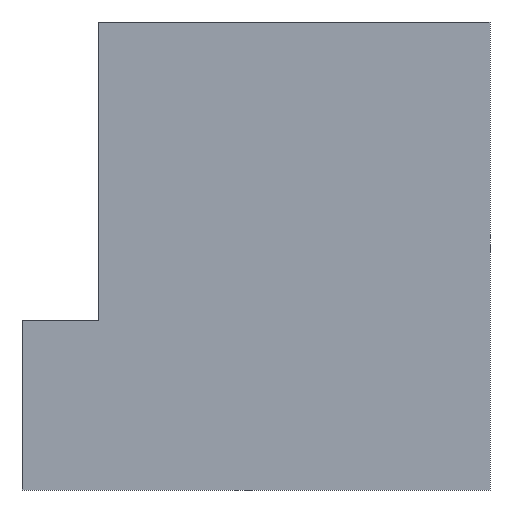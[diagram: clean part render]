
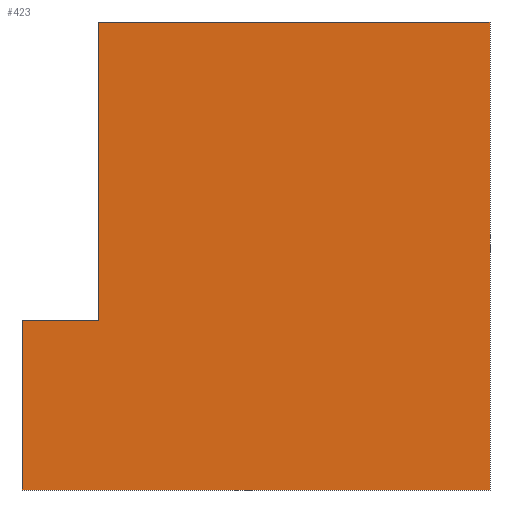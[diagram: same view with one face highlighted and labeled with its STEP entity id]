
A CAD part, front view. The second image highlights one B-rep face of the part: STEP entity #423.
In plain terms, the highlighted planar face has unit normal (0, -1, 0).
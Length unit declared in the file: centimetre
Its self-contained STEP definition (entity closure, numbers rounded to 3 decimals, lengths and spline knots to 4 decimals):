
#4 = CARTESIAN_POINT ( 'NONE',  ( 164.1496, 0., 361.1331 ) ) ;
#14 = CARTESIAN_POINT ( 'NONE',  ( 0., 0., 0. ) ) ;
#20 = CARTESIAN_POINT ( 'NONE',  ( 1000., 0., 1000. ) ) ;
#21 = CARTESIAN_POINT ( 'NONE',  ( 0., 0., 1000. ) ) ;
#54 = DIRECTION ( 'NONE',  ( 0., 0., 1. ) ) ;
#65 = EDGE_CURVE ( 'NONE', #159, #287, #540, .T. ) ;
#91 = EDGE_CURVE ( 'NONE', #536, #472, #452, .T. ) ;
#101 = ORIENTED_EDGE ( 'NONE', *, *, #91, .T. ) ;
#114 = LINE ( 'NONE', #4, #437 ) ;
#121 = VECTOR ( 'NONE', #324, 100. ) ;
#146 = VERTEX_POINT ( 'NONE', #286 ) ;
#152 = DIRECTION ( 'NONE',  ( 0., 0., 1. ) ) ;
#159 = VERTEX_POINT ( 'NONE', #467 ) ;
#161 = EDGE_CURVE ( 'NONE', #146, #159, #563, .T. ) ;
#164 = EDGE_CURVE ( 'NONE', #472, #287, #407, .T. ) ;
#206 = VERTEX_POINT ( 'NONE', #556 ) ;
#243 = VECTOR ( 'NONE', #270, 100. ) ;
#253 = PLANE ( 'NONE',  #451 ) ;
#269 = EDGE_CURVE ( 'NONE', #536, #206, #632, .T. ) ;
#270 = DIRECTION ( 'NONE',  ( 0., 0., -1. ) ) ;
#286 = CARTESIAN_POINT ( 'NONE',  ( 164.1496, 0., 1000. ) ) ;
#287 = VERTEX_POINT ( 'NONE', #470 ) ;
#300 = EDGE_LOOP ( 'NONE', ( #383, #502, #459, #101, #628, #575 ) ) ;
#324 = DIRECTION ( 'NONE',  ( 1., 0., 0. ) ) ;
#325 = VECTOR ( 'NONE', #427, 100. ) ;
#331 = DIRECTION ( 'NONE',  ( 0., 1., 0. ) ) ;
#383 = ORIENTED_EDGE ( 'NONE', *, *, #161, .F. ) ;
#407 = LINE ( 'NONE', #409, #520 ) ;
#409 = CARTESIAN_POINT ( 'NONE',  ( 0., 0., 0. ) ) ;
#417 = FACE_OUTER_BOUND ( 'NONE', #300, .T. ) ;
#423 = ADVANCED_FACE ( 'NONE', ( #417 ), #253, .F. ) ;
#427 = DIRECTION ( 'NONE',  ( 1., 0., 0. ) ) ;
#437 = VECTOR ( 'NONE', #54, 100. ) ;
#438 = VECTOR ( 'NONE', #492, 100. ) ;
#451 = AXIS2_PLACEMENT_3D ( 'NONE', #623, #331, #152 ) ;
#452 = LINE ( 'NONE', #489, #438 ) ;
#459 = ORIENTED_EDGE ( 'NONE', *, *, #269, .F. ) ;
#467 = CARTESIAN_POINT ( 'NONE',  ( 1000., 0., 1000. ) ) ;
#470 = CARTESIAN_POINT ( 'NONE',  ( 1000., 0., 0. ) ) ;
#472 = VERTEX_POINT ( 'NONE', #14 ) ;
#473 = CARTESIAN_POINT ( 'NONE',  ( 164.1496, 0., 361.1331 ) ) ;
#489 = CARTESIAN_POINT ( 'NONE',  ( 0., 0., 1000. ) ) ;
#492 = DIRECTION ( 'NONE',  ( 0., 0., -1. ) ) ;
#502 = ORIENTED_EDGE ( 'NONE', *, *, #537, .F. ) ;
#504 = DIRECTION ( 'NONE',  ( 1., 0., 0. ) ) ;
#520 = VECTOR ( 'NONE', #504, 100. ) ;
#536 = VERTEX_POINT ( 'NONE', #596 ) ;
#537 = EDGE_CURVE ( 'NONE', #206, #146, #114, .T. ) ;
#540 = LINE ( 'NONE', #20, #243 ) ;
#556 = CARTESIAN_POINT ( 'NONE',  ( 164.1496, 0., 361.1331 ) ) ;
#563 = LINE ( 'NONE', #21, #121 ) ;
#575 = ORIENTED_EDGE ( 'NONE', *, *, #65, .F. ) ;
#596 = CARTESIAN_POINT ( 'NONE',  ( 0., 0., 361.1331 ) ) ;
#623 = CARTESIAN_POINT ( 'NONE',  ( 0., 0., 1000. ) ) ;
#628 = ORIENTED_EDGE ( 'NONE', *, *, #164, .T. ) ;
#632 = LINE ( 'NONE', #473, #325 ) ;
